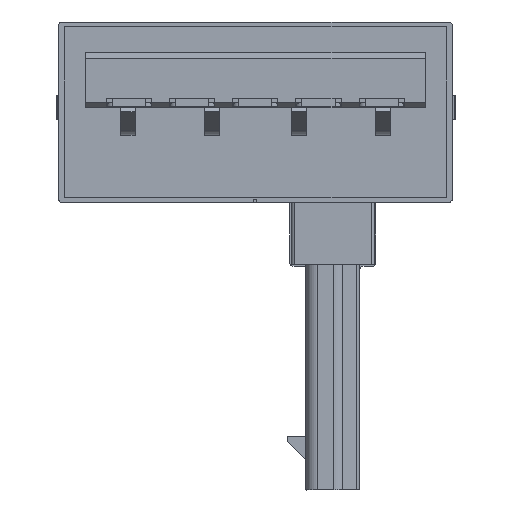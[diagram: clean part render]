
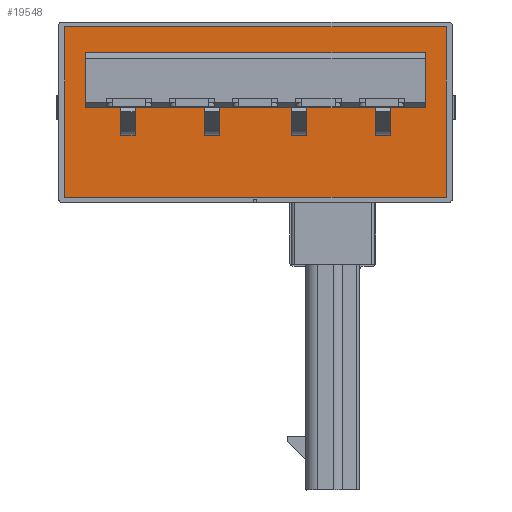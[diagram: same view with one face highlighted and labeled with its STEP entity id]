
A CAD part, front view. The second image highlights one B-rep face of the part: STEP entity #19548.
In plain terms, the highlighted planar face has unit normal (0, -1, 0) as drawn and (0, 1, 0) by its records, which use the part's own axes.
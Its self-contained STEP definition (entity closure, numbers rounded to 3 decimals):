
#9562 = VERTEX_POINT('',#9563);
#9563 = CARTESIAN_POINT('',(0.,3.55,-4.1));
#9569 = EDGE_CURVE('',#9562,#9570,#9572,.T.);
#9570 = VERTEX_POINT('',#9571);
#9571 = CARTESIAN_POINT('',(12.7,3.55,-4.1));
#9572 = LINE('',#9573,#9574);
#9573 = CARTESIAN_POINT('',(12.7,3.55,-4.1));
#9574 = VECTOR('',#9575,1.);
#9575 = DIRECTION('',(1.,0.,0.));
#10140 = EDGE_CURVE('',#10141,#10143,#10145,.T.);
#10141 = VERTEX_POINT('',#10142);
#10142 = CARTESIAN_POINT('',(12.7,3.55,1.58));
#10143 = VERTEX_POINT('',#10144);
#10144 = CARTESIAN_POINT('',(0.,3.55,1.58));
#10145 = LINE('',#10146,#10147);
#10146 = CARTESIAN_POINT('',(12.7,3.55,1.58));
#10147 = VECTOR('',#10148,1.);
#10148 = DIRECTION('',(-1.,0.,0.));
#10275 = EDGE_CURVE('',#9570,#10141,#10276,.T.);
#10276 = LINE('',#10277,#10278);
#10277 = CARTESIAN_POINT('',(12.7,3.55,-4.1));
#10278 = VECTOR('',#10279,1.);
#10279 = DIRECTION('',(0.,0.,1.));
#10396 = EDGE_CURVE('',#10143,#9562,#10397,.T.);
#10397 = LINE('',#10398,#10399);
#10398 = CARTESIAN_POINT('',(0.,3.55,-4.1));
#10399 = VECTOR('',#10400,1.);
#10400 = DIRECTION('',(0.,0.,-1.));
#18627 = VERTEX_POINT('',#18628);
#18628 = CARTESIAN_POINT('',(0.7,3.55,-1.4));
#18634 = EDGE_CURVE('',#18627,#18635,#18637,.T.);
#18635 = VERTEX_POINT('',#18636);
#18636 = CARTESIAN_POINT('',(12.,3.55,-1.4));
#18637 = LINE('',#18638,#18639);
#18638 = CARTESIAN_POINT('',(0.,3.55,-1.4));
#18639 = VECTOR('',#18640,1.);
#18640 = DIRECTION('',(1.,0.,0.));
#18829 = VERTEX_POINT('',#18830);
#18830 = CARTESIAN_POINT('',(12.,3.55,-3.24));
#18836 = EDGE_CURVE('',#18837,#18829,#18839,.T.);
#18837 = VERTEX_POINT('',#18838);
#18838 = CARTESIAN_POINT('',(0.7,3.55,-3.24));
#18839 = LINE('',#18840,#18841);
#18840 = CARTESIAN_POINT('',(0.,3.55,-3.24));
#18841 = VECTOR('',#18842,1.);
#18842 = DIRECTION('',(1.,0.,0.));
#18860 = EDGE_CURVE('',#18837,#18627,#18861,.T.);
#18861 = LINE('',#18862,#18863);
#18862 = CARTESIAN_POINT('',(0.7,3.55,40.721));
#18863 = VECTOR('',#18864,1.);
#18864 = DIRECTION('',(0.,0.,1.));
#18881 = EDGE_CURVE('',#18635,#18829,#18882,.T.);
#18882 = LINE('',#18883,#18884);
#18883 = CARTESIAN_POINT('',(12.,3.55,40.721));
#18884 = VECTOR('',#18885,1.);
#18885 = DIRECTION('',(0.,0.,-1.));
#19548 = ADVANCED_FACE('',(#19549,#19555),#19561,.F.);
#19549 = FACE_BOUND('',#19550,.T.);
#19550 = EDGE_LOOP('',(#19551,#19552,#19553,#19554));
#19551 = ORIENTED_EDGE('',*,*,#18881,.F.);
#19552 = ORIENTED_EDGE('',*,*,#18634,.F.);
#19553 = ORIENTED_EDGE('',*,*,#18860,.F.);
#19554 = ORIENTED_EDGE('',*,*,#18836,.T.);
#19555 = FACE_BOUND('',#19556,.T.);
#19556 = EDGE_LOOP('',(#19557,#19558,#19559,#19560));
#19557 = ORIENTED_EDGE('',*,*,#10275,.F.);
#19558 = ORIENTED_EDGE('',*,*,#9569,.F.);
#19559 = ORIENTED_EDGE('',*,*,#10396,.F.);
#19560 = ORIENTED_EDGE('',*,*,#10140,.F.);
#19561 = PLANE('',#19562);
#19562 = AXIS2_PLACEMENT_3D('',#19563,#19564,#19565);
#19563 = CARTESIAN_POINT('',(62.565,3.55,
    -1.25));
#19564 = DIRECTION('',(0.,-1.,0.));
#19565 = DIRECTION('',(0.,0.,-1.));
